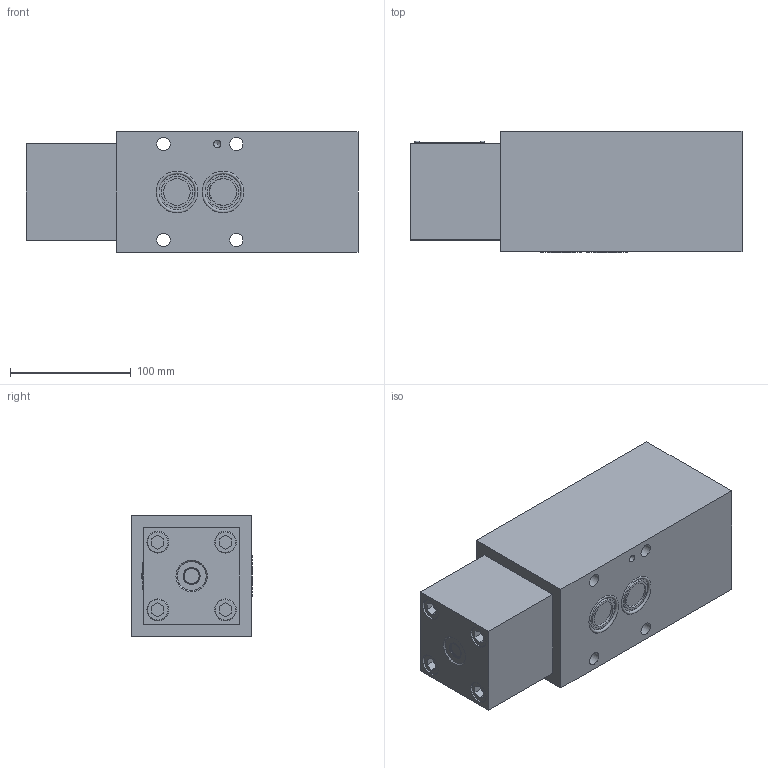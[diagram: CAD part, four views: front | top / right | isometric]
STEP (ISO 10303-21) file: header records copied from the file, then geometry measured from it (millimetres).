
FILE_DESCRIPTION(/* description */ (''),/* implementation_level */ '2;1');
FILE_NAME(/* name */ 'FD25PA平衡阀.prt.stp',/* time_stamp */ '2022-03-30T20:02:31+08:00',/* author */ (''),/* organization */ (''),/* preprocessor_version */ 'ST-DEVELOPER v16.7',/* originating_system */ 'SIEMENS PLM Software NX 12.0',/* authorisation */ '');
FILE_SCHEMA (('AUTOMOTIVE_DESIGN { 1 0 10303 214 3 1 1 1 }'));
Length unit declared in the file: millimetre
Products named in the file (1): FD25PA平衡阀
Bounding box: 275 x 100.12 x 100 mm (x, y, z)
Volume: 436277.6 mm3; surface area: 196240.2 mm2
Topology: 10 solids, 11 shells, 333 faces, 885 edges, 589 vertices
Faces by surface type: cylinder 195, plane 92, bspline 22, cone 22, torus 2
Full cylindrical faces by diameter (mm): 1.8 x2, 1.9 x2, 2 x2, 6 x1, 10.5 x40, 11 x8, 12 x108, 12.5 x1, 18 x8, 22 x2, 24 x1, 26 x2, 34.5 x2, 54 x1
Entity records: 25943 total; most frequent: CARTESIAN_POINT 22048, DIRECTION 686, ORIENTED_EDGE 656, EDGE_CURVE 328, EDGE_LOOP 288, AXIS2_PLACEMENT_3D 271, VERTEX_POINT 259, FACE_BOUND 206
